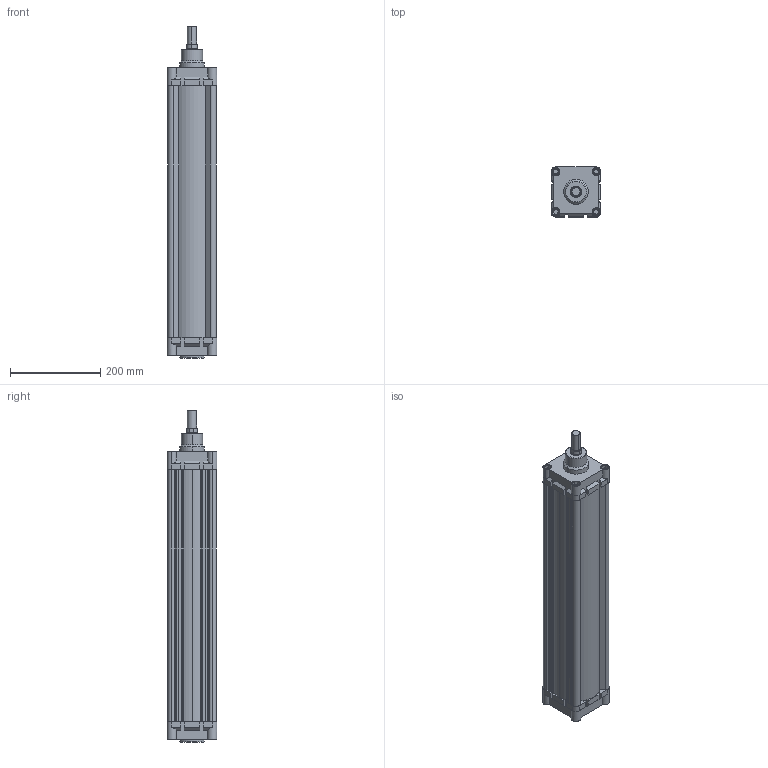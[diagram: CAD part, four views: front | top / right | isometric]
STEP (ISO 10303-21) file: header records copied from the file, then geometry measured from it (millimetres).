
FILE_DESCRIPTION (( 'STEP AP214' ), '1' );
FILE_NAME ('RIC100_500_MY_WEB.STEP', '2020-09-10T17:50:09', ( '' ), ( '' ), 'SwSTEP 2.0', 'SolidWorks 2018', '' );
FILE_SCHEMA (( 'AUTOMOTIVE_DESIGN' ));
Length unit declared in the file: millimetre
Products named in the file (6): RIC100_500_MY_WEB; RIC_100_BORU_WEB; 25_K_MIL_WEB; rýc100arkakapak; RIC_100_ON_KAPAK_WEB; M12 KAPAK CÝVATASI
Assembly tree (12 placements, depth 2):
  RIC100_500_MY_WEB
    RIC_100_ON_KAPAK_WEB
    RIC_100_BORU_WEB
    rýc100arkakapak
    M12 KAPAK CÝVATASI  x8
    25_K_MIL_WEB
Bounding box: 110 x 110 x 734 mm (x, y, z)
Volume: 2474462.2 mm3; surface area: 681576.6 mm2
Topology: 12 solids, 12 shells, 717 faces, 1793 edges, 1155 vertices
Faces by surface type: plane 362, cylinder 209, bspline 81, cone 59, torus 6
Entity records: 22464 total; most frequent: CARTESIAN_POINT 7800, ORIENTED_EDGE 2746, DIRECTION 2408, EDGE_CURVE 1373, VERTEX_POINT 903, LINE 826, VECTOR 826, AXIS2_PLACEMENT_3D 791
